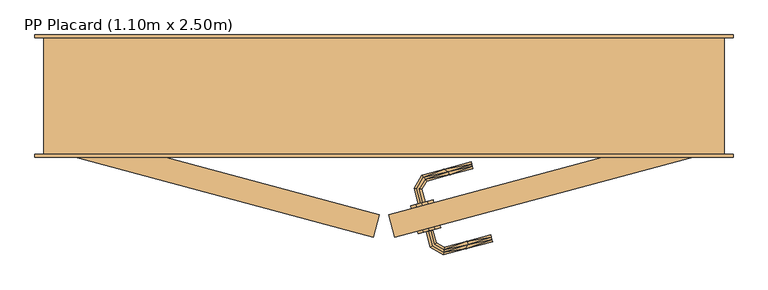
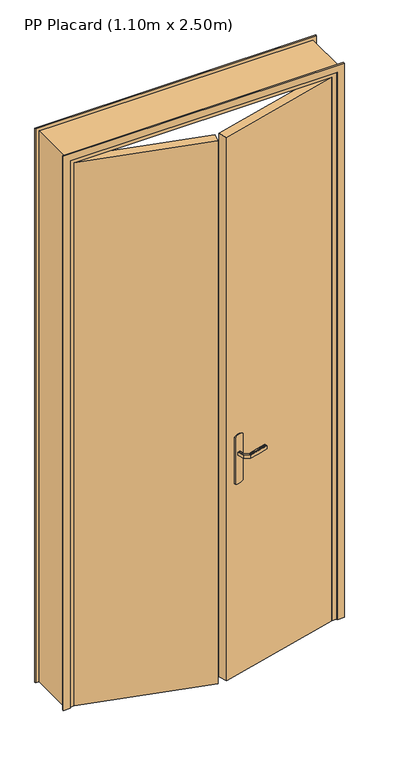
"""IFC4 building model written with IfcOpenShell, lengths in millimetres: door geometry, PP Placard (1.10m x 2.50m)."""

from ifc_helpers import new_model, si_unit, frame, origin, origin_with_axes, place, context, project, spatial, polyline, outline, extrude, faceted_brep, source, transform, mapped, element, save


def pp_placard_1_10m_x_2_50m_60abd73f(model_context):
    return source(origin(), model_context, "Body", "SolidModel", [
        extrude(outline(polyline([(576.6119663, -103.7134418), (566.2592045, -142.3504748), (35.0, 0.0), (45.3527618, 38.6370331), (576.6119663, -103.7134418)])), origin_with_axes(), (0.0, 0.0, 1.0), 2450.0),
        faceted_brep([(661.0341521, -132.1751471, 1007.7804408), (664.9467286, -131.1267754, 1007.7804408), (668.7859953, -130.098047, 1007.0), (668.7859953, -130.098047, 993.0), (664.9467286, -131.1267754, 992.2195592), (661.0341521, -132.1751471, 992.2195592), (657.1948854, -133.2038755, 993.0), (657.1948854, -133.2038755, 1007.0), (664.351478, -159.9126429, 1007.0), (667.7646315, -157.2936382, 1007.7804408), (687.4204196, -168.6419128, 1007.7804408), (687.9926902, -164.2950864, 1007.7804408), (671.2429582, -154.6246242, 1007.7804408), (674.6561117, -152.0056194, 1007.0), (674.6561117, -152.0056194, 993.0), (671.2429582, -154.6246242, 992.2195592), (687.9926902, -164.2950864, 992.2195592), (687.4204196, -168.6419128, 992.2195592), (667.7646315, -157.2936382, 992.2195592), (664.351478, -159.9126429, 993.0), (686.8588717, -172.9072927, 1007.0), (688.5542381, -160.0297065, 1007.0), (688.5542381, -160.0297065, 993.0), (686.8588717, -172.9072927, 993.0), (771.513993, -150.2240213, 993.0), (770.4852646, -146.3847546, 992.2195592), (769.4368929, -142.4721781, 992.2195592), (768.4081645, -138.6329114, 993.0), (768.4081645, -138.6329114, 1007.0), (769.4368929, -142.4721781, 1007.7804408), (770.4852646, -146.3847546, 1007.7804408), (771.513993, -150.2240213, 1007.0), (725.4287606, -162.5725221, 1007.0), (729.2389774, -155.3399205, 1007.8786868), (728.4812013, -149.3313089, 1007.0), (728.4812013, -149.3313089, 993.0), (729.2389773, -155.3399206, 992.1213132), (725.4287635, -162.5725214, 993.0)], [[[0, 1, 2, 3, 4, 5, 6, 7]], [[8, 9, 0, 7]], [[9, 10, 11, 12, 1, 0]], [[12, 13, 2, 1]], [[3, 2, 13, 14]], [[14, 15, 4, 3]], [[15, 16, 17, 18, 5, 4]], [[18, 19, 6, 5]], [[7, 6, 19, 8]], [[20, 10, 9, 8]], [[11, 21, 13, 12]], [[14, 13, 21, 22]], [[22, 16, 15, 14]], [[17, 23, 19, 18]], [[8, 19, 23, 20]], [[24, 25, 26, 27, 28, 29, 30, 31]], [[32, 30, 33]], [[31, 30, 32]], [[10, 20, 32]], [[33, 34, 11]], [[21, 11, 34]], [[34, 29, 28]], [[30, 29, 33]], [[29, 34, 33]], [[10, 32, 33]], [[10, 33, 11]], [[22, 21, 34, 28, 27, 35]], [[35, 26, 36]], [[37, 36, 25]], [[22, 35, 16]], [[35, 27, 26]], [[24, 37, 25]], [[23, 17, 37]], [[37, 17, 36]], [[17, 16, 36]], [[16, 35, 36]], [[25, 36, 26]], [[20, 23, 37, 24, 31, 32]]]),
        faceted_brep([(648.0931998, -83.8788558, 1007.7804408), (644.2539331, -84.9075842, 1007.0), (644.2539331, -84.9075842, 993.0), (648.0931998, -83.8788558, 992.2195592), (652.0057764, -82.8304841, 992.2195592), (655.845043, -81.8017556, 993.0), (655.845043, -81.8017556, 1007.0), (652.0057764, -82.8304841, 1007.7804408), (650.0254439, -60.0827159, 993.0), (650.0254439, -60.0827159, 1007.0), (645.760064, -59.521168, 1007.7804408), (655.5277595, -42.603023, 1007.7804408), (652.8587455, -39.1246963, 1007.7804408), (641.4132376, -58.9488974, 1007.7804408), (637.1478577, -58.3873495, 1007.0), (637.1478577, -58.3873495, 993.0), (641.4132376, -58.9488974, 992.2195592), (652.8587455, -39.1246963, 992.2195592), (655.5277595, -42.603023, 992.2195592), (645.760064, -59.521168, 992.2195592), (658.1467642, -46.0161764, 993.0), (658.1467642, -46.0161764, 1007.0), (650.2397408, -35.7115428, 1007.0), (650.2397408, -35.7115428, 993.0), (737.8940856, -24.6479461, 993.0), (736.8653572, -20.8086794, 992.2195592), (735.8169855, -16.8961028, 992.2195592), (734.7882571, -13.0568362, 993.0), (734.7882571, -13.0568362, 1007.0), (735.8169855, -16.8961028, 1007.7804408), (736.8653572, -20.8086794, 1007.7804408), (737.8940856, -24.6479461, 1007.0), (698.0204134, -35.3320643, 993.0), (698.0204249, -35.3320613, 1007.0), (695.6723725, -29.7495629, 1007.8786868), (688.8096296, -25.3767723, 1007.0), (688.8096282, -25.3767727, 993.0), (695.6723727, -29.7495629, 992.1213132)], [[[0, 1, 2, 3, 4, 5, 6, 7]], [[6, 5, 8, 9]], [[9, 10, 7, 6]], [[10, 11, 12, 13, 0, 7]], [[13, 14, 1, 0]], [[2, 1, 14, 15]], [[15, 16, 3, 2]], [[16, 17, 18, 19, 4, 3]], [[19, 8, 5, 4]], [[9, 8, 20, 21]], [[21, 11, 10, 9]], [[12, 22, 14, 13]], [[15, 14, 22, 23]], [[23, 17, 16, 15]], [[18, 20, 8, 19]], [[24, 25, 26, 27, 28, 29, 30, 31]], [[21, 20, 32, 24, 31, 33]], [[33, 30, 34]], [[35, 34, 29]], [[21, 33, 11]], [[33, 31, 30]], [[28, 35, 29]], [[22, 12, 35]], [[35, 12, 34]], [[12, 11, 34]], [[11, 33, 34]], [[29, 34, 30]], [[22, 35, 28, 27, 36, 23]], [[36, 26, 37]], [[27, 26, 36]], [[17, 23, 36]], [[37, 32, 18]], [[20, 18, 32]], [[32, 25, 24]], [[26, 25, 37]], [[25, 32, 37]], [[17, 36, 37]], [[17, 37, 18]]]),
        extrude(outline(polyline([(0.0, -15.0), (0.0, 15.0), (2470.0, 15.0), (2470.0, 1155.0), (0.0, 1155.0), (0.0, 1185.0), (2500.0, 1185.0), (2500.0, -15.0), (0.0, -15.0)])), frame((0.0, 200.0, 0.0), z_axis=(0.0, 1.0, 0.0), x_axis=(0.0, 0.0, 1.0)), (0.0, 0.0, 1.0), 5.0),
        faceted_brep([(0.0, 0.0, 0.0), (0.0, 200.0, 0.0), (50.0, 200.0, 0.0), (50.0, 40.0, 0.0), (35.0, 40.0, 0.0), (35.0, 0.0, 0.0), (0.0, 0.0, 2485.0), (0.0, 200.0, 2485.0), (1170.0, 200.0, 2485.0), (1170.0, 200.0, 0.0), (1120.0, 200.0, 0.0), (1120.0, 200.0, 2435.0), (50.0, 200.0, 2435.0), (50.0, 40.0, 2435.0), (1120.0, 40.0, 2435.0), (1120.0, 40.0, 0.0), (1135.0, 40.0, 0.0), (1135.0, 40.0, 2450.0), (35.0, 40.0, 2450.0), (35.0, 0.0, 2450.0), (1135.0, 0.0, 2450.0), (1135.0, 0.0, 0.0), (1170.0, 0.0, 0.0), (1170.0, 0.0, 2485.0)], [[[0, 1, 2, 3, 4, 5]], [[1, 0, 6, 7]], [[2, 1, 7, 8, 9, 10, 11, 12]], [[3, 2, 12, 13]], [[4, 3, 13, 14, 15, 16, 17, 18]], [[5, 4, 18, 19]], [[0, 5, 19, 20, 21, 22, 23, 6]], [[8, 23, 22, 9]], [[22, 21, 16, 15, 10, 9]], [[14, 11, 10, 15]], [[20, 17, 16, 21]], [[7, 6, 23, 8]], [[13, 12, 11, 14]], [[19, 18, 17, 20]]]),
        extrude(outline(polyline([(0.0, 0.0), (3.065895, 9.9818658), (212.1249722, 29.838911), (217.015302, 20.6127508), (219.3510918, 10.4352539), (218.9731616, 0.0), (215.9072666, -9.9818657), (6.8481894, -29.8389108), (1.9578596, -20.6127508), (-0.3779302, -10.4352539), (0.0, 0.0)])), frame((672.9904403, -128.9714693, 866.0039831), z_axis=(-0.2588190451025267, 0.9659258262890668, 0.0), x_axis=(-0.09133539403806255, -0.024473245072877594, 0.9955194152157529)), (0.0, 0.0, 1.0), 5.0),
        extrude(outline(polyline([(0.0, 0.0), (3.0658951, 9.9818657), (212.1249722, 29.8389109), (217.015302, 20.6127508), (219.3510918, 10.4352539), (218.9731616, 0.0), (215.9072666, -9.9818657), (6.8481894, -29.8389109), (1.9578596, -20.6127508), (-0.3779302, -10.4352539), (0.0, 0.0)])), frame((661.3435833, -85.5048071, 866.0039831), z_axis=(-0.2588190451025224, 0.965925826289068, 0.0), x_axis=(-0.09133539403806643, -0.02447324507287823, 0.9955194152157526)), (0.0, 0.0, 1.0), 5.0),
        extrude(outline(polyline([(593.3880337, -103.7134418), (1124.6472382, 38.6370331), (1135.0, 0.0), (603.7407955, -142.3504748), (593.3880337, -103.7134418)])), origin_with_axes(), (0.0, 0.0, 1.0), 2450.0),
        extrude(outline(polyline([(0.0, -15.0), (0.0, 15.0), (2470.0, 15.0), (2470.0, 1155.0), (0.0, 1155.0), (0.0, 1185.0), (2500.0, 1185.0), (2500.0, -15.0), (0.0, -15.0)])), frame((0.0, -5.0, 0.0), z_axis=(0.0, 1.0, 0.0), x_axis=(0.0, 0.0, 1.0)), (0.0, 0.0, 1.0), 5.0),
    ])


if __name__ == "__main__":
    model = new_model("IFC4")
    model_context = context("Model", 3, world=origin())
    ifc_project = project(units=[si_unit("LENGTHUNIT", "METRE", prefix="MILLI")], contexts=[model_context])
    site = spatial("IfcSite", under=ifc_project)
    building = spatial("IfcBuilding", under=site)
    placement = place(None, origin())
    pp_placard_1_10m_x_2_50m_shape = pp_placard_1_10m_x_2_50m_60abd73f(model_context)
    element("IfcDoor", 1, ObjectType="PP Placard (1.10m x 2.50m)", at=placement, inside=building, context=model_context, shape_type="MappedRepresentation", body=[
        mapped(pp_placard_1_10m_x_2_50m_shape, transform((0.0, 0.0, 0.0), x_axis=(1.0, 0.0, 0.0), y_axis=(0.0, 1.0, 0.0), z_axis=(0.0, 0.0, 1.0))),
    ])
    save(model, "model.ifc")
